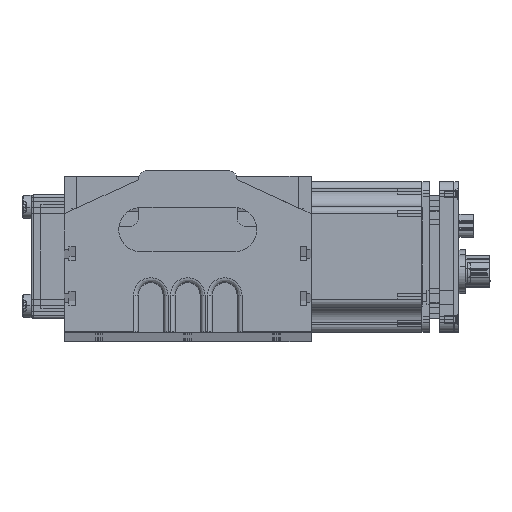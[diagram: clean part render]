
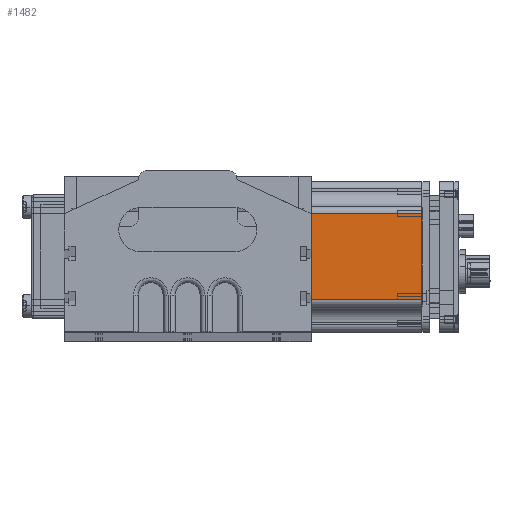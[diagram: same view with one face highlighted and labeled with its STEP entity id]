
A CAD part, top view. The second image highlights one B-rep face of the part: STEP entity #1482.
In plain terms, the highlighted planar face has unit normal (0, 0, 1).
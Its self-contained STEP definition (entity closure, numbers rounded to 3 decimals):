
#1050 = EDGE_CURVE ( 'NONE', #11053, #1450, #46935, .T. ) ;
#1064 = EDGE_CURVE ( 'NONE', #8131, #49333, #46986, .T. ) ;
#1434 = ORIENTED_EDGE ( 'NONE', *, *, #1050, .T. ) ;
#1442 = ORIENTED_EDGE ( 'NONE', *, *, #10986, .F. ) ;
#1450 = VERTEX_POINT ( 'NONE', #47707 ) ;
#1458 = EDGE_CURVE ( 'NONE', #41186, #1450, #47687, .T. ) ;
#1482 = ADVANCED_FACE ( 'NONE', ( #47785 ), #47779, .F. ) ;
#1484 = ORIENTED_EDGE ( 'NONE', *, *, #1064, .F. ) ;
#1490 = ORIENTED_EDGE ( 'NONE', *, *, #8086, .F. ) ;
#1494 = ORIENTED_EDGE ( 'NONE', *, *, #1458, .F. ) ;
#1499 = ORIENTED_EDGE ( 'NONE', *, *, #1652, .F. ) ;
#1502 = EDGE_CURVE ( 'NONE', #49333, #1556, #47789, .T. ) ;
#1556 = VERTEX_POINT ( 'NONE', #47944 ) ;
#1581 = ORIENTED_EDGE ( 'NONE', *, *, #1502, .F. ) ;
#1631 = VERTEX_POINT ( 'NONE', #48039 ) ;
#1649 = ORIENTED_EDGE ( 'NONE', *, *, #1666, .F. ) ;
#1652 = EDGE_CURVE ( 'NONE', #1556, #1631, #48081, .T. ) ;
#1666 = EDGE_CURVE ( 'NONE', #1631, #41186, #48099, .T. ) ;
#6596 = VERTEX_POINT ( 'NONE', #17095 ) ;
#8086 = EDGE_CURVE ( 'NONE', #6596, #8131, #19995, .T. ) ;
#8131 = VERTEX_POINT ( 'NONE', #20047 ) ;
#10986 = EDGE_CURVE ( 'NONE', #11053, #6596, #25650, .T. ) ;
#11053 = VERTEX_POINT ( 'NONE', #25822 ) ;
#17095 = CARTESIAN_POINT ( 'NONE',  ( -24.5, 7., 30.5 ) ) ;
#19965 = DIRECTION ( 'NONE',  ( 1., 0., 0. ) ) ;
#19966 = VECTOR ( 'NONE', #19965, 1000. ) ;
#19994 = CARTESIAN_POINT ( 'NONE',  ( -24.5, 7., 30.5 ) ) ;
#19995 = LINE ( 'NONE', #19994, #19966 ) ;
#20047 = CARTESIAN_POINT ( 'NONE',  ( -17.5, 7., 30.5 ) ) ;
#25650 = LINE ( 'NONE', #25685, #25684 ) ;
#25683 = DIRECTION ( 'NONE',  ( 0., 1., 0. ) ) ;
#25684 = VECTOR ( 'NONE', #25683, 1000. ) ;
#25685 = CARTESIAN_POINT ( 'NONE',  ( -24.5, 7., 30.5 ) ) ;
#25822 = CARTESIAN_POINT ( 'NONE',  ( -24.5, 0., 30.5 ) ) ;
#31402 = CARTESIAN_POINT ( 'NONE',  ( 24.5, 7., 30.5 ) ) ;
#38123 = CARTESIAN_POINT ( 'NONE',  ( -17.5, 94., 30.5 ) ) ;
#41186 = VERTEX_POINT ( 'NONE', #31402 ) ;
#46926 = VECTOR ( 'NONE', #46999, 1000. ) ;
#46934 = CARTESIAN_POINT ( 'NONE',  ( -24.5, 0., 30.5 ) ) ;
#46935 = LINE ( 'NONE', #46934, #46926 ) ;
#46971 = DIRECTION ( 'NONE',  ( 0., 1., 0. ) ) ;
#46972 = VECTOR ( 'NONE', #46971, 1000. ) ;
#46985 = CARTESIAN_POINT ( 'NONE',  ( -17.5, 7., 30.5 ) ) ;
#46986 = LINE ( 'NONE', #46985, #46972 ) ;
#46999 = DIRECTION ( 'NONE',  ( 1., 0., 0. ) ) ;
#47685 = VECTOR ( 'NONE', #47751, 1000. ) ;
#47686 = CARTESIAN_POINT ( 'NONE',  ( 24.5, 7., 30.5 ) ) ;
#47687 = LINE ( 'NONE', #47686, #47685 ) ;
#47707 = CARTESIAN_POINT ( 'NONE',  ( 24.5, 0., 30.5 ) ) ;
#47751 = DIRECTION ( 'NONE',  ( 0., -1., 0. ) ) ;
#47765 = DIRECTION ( 'NONE',  ( -1., 0., 0. ) ) ;
#47766 = DIRECTION ( 'NONE',  ( 0., 0., -1. ) ) ;
#47767 = CARTESIAN_POINT ( 'NONE',  ( -24.5, 7., 30.5 ) ) ;
#47773 = AXIS2_PLACEMENT_3D ( 'NONE', #47767, #47766, #47765 ) ;
#47779 = PLANE ( 'NONE',  #47773 ) ;
#47785 = FACE_OUTER_BOUND ( 'NONE', #48937, .T. ) ;
#47789 = LINE ( 'NONE', #47807, #47804 ) ;
#47804 = VECTOR ( 'NONE', #47848, 1000. ) ;
#47807 = CARTESIAN_POINT ( 'NONE',  ( 26.5, 94., 30.5 ) ) ;
#47848 = DIRECTION ( 'NONE',  ( 1., 0., 0. ) ) ;
#47944 = CARTESIAN_POINT ( 'NONE',  ( 17.5, 94., 30.5 ) ) ;
#48039 = CARTESIAN_POINT ( 'NONE',  ( 17.5, 7., 30.5 ) ) ;
#48061 = DIRECTION ( 'NONE',  ( 0., -1., 0. ) ) ;
#48062 = VECTOR ( 'NONE', #48061, 1000. ) ;
#48063 = CARTESIAN_POINT ( 'NONE',  ( 17.5, 95.35, 30.5 ) ) ;
#48081 = LINE ( 'NONE', #48063, #48062 ) ;
#48097 = DIRECTION ( 'NONE',  ( 1., 0., 0. ) ) ;
#48098 = CARTESIAN_POINT ( 'NONE',  ( -24.5, 7., 30.5 ) ) ;
#48099 = LINE ( 'NONE', #48098, #48167 ) ;
#48167 = VECTOR ( 'NONE', #48097, 1000. ) ;
#48937 = EDGE_LOOP ( 'NONE', ( #1484, #1490, #1442, #1434, #1494, #1649, #1499, #1581 ) ) ;
#49333 = VERTEX_POINT ( 'NONE', #38123 ) ;
